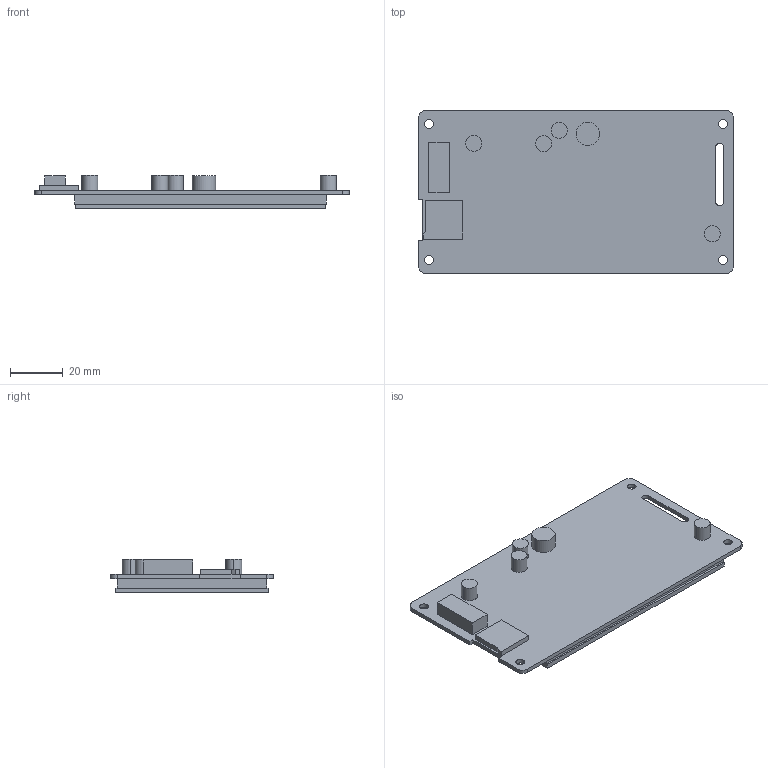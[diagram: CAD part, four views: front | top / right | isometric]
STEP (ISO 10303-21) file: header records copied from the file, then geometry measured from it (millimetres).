
FILE_DESCRIPTION((''),'2;1');
FILE_NAME('DMG80480T040-01WTC','2022-04-20T',('Administrator'),(''),'PRO/ENGINEER BY PARAMETRIC TECHNOLOGY CORPORATION, 2008380','PRO/ENGINEER BY PARAMETRIC TECHNOLOGY CORPORATION, 2008380','');
FILE_SCHEMA(('CONFIG_CONTROL_DESIGN'));
Length unit declared in the file: millimetre
Products named in the file (1): DMG80480T040-01WTC
Bounding box: 119.51 x 61.85 x 12.8 mm (x, y, z)
Volume: 43348.2 mm3; surface area: 18164.4 mm2
Topology: 1 solids, 1 shells, 66 faces, 11396 edges, 18629 vertices
Faces by surface type: plane 42, cylinder 24
Entity records: 62180 total; most frequent: DIRECTION 15557, CARTESIAN_POINT 11571, TRIMMED_CURVE 11232, VECTOR 7369, LINE 7369, AXIS2_PLACEMENT_3D 4094, CIRCLE 4027, ORIENTED_EDGE 328
